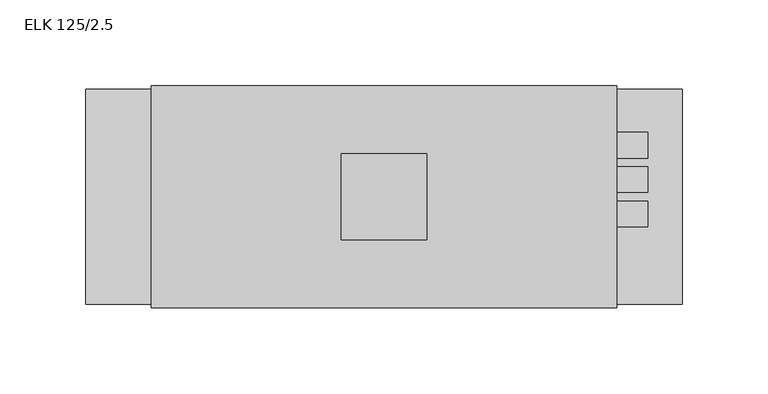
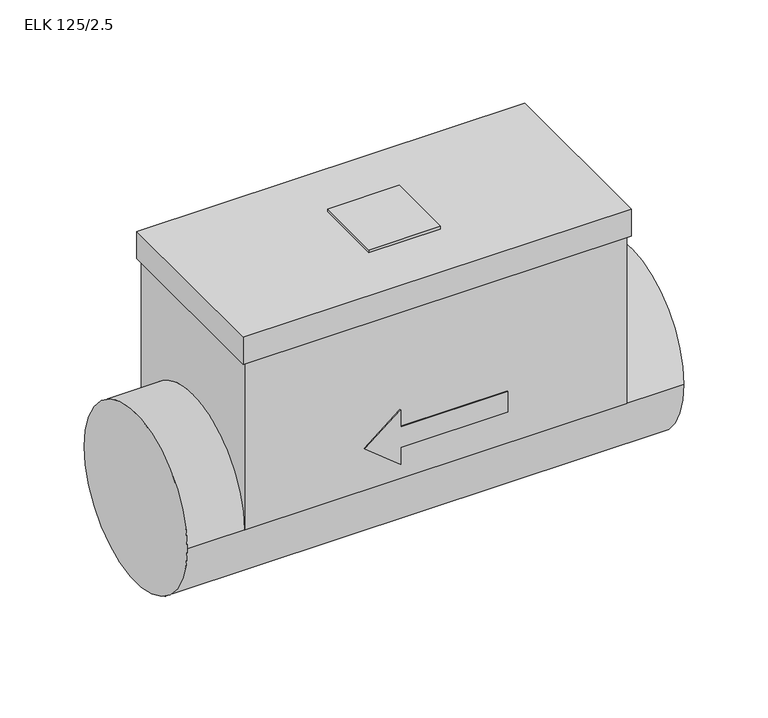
"""IFC4 building model written with IfcOpenShell, lengths in millimetres: proxy geometry, KORF_Нагреватель_Электрический_Круглый_ELK : ELK 125/2.5."""

from ifc_helpers import new_model, si_unit, point, frame, frame_2d, origin, place, context, project, spatial, polyline, circle_curve, trimmed, segment, composite_curve, outline, extrude, source, transform, mapped, element, save
from ifc_brep_helpers import plane_surface, cylinder_surface, advanced_brep


def elk_125_2_5_bc23f03a(model_context):
    return source(origin(), model_context, "Body", "SolidModel", [
        extrude(outline(polyline([(198.5, 25.0), (198.5, -25.0), (148.5, -25.0), (148.5, 25.0), (198.5, 25.0)])), frame((0.0, 0.0, 144.5), z_axis=(0.0, 0.0, 1.0), x_axis=(1.0, 0.0, 0.0)), (0.0, 0.0, 1.0), 2.0),
        extrude(outline(composite_curve([segment(trimmed(circle_curve(frame_2d((-10.0, 104.5)), 7.5), [point((-17.5, 104.5))], [point((-2.5, 104.5))], False, "CARTESIAN"), True, "CONTINUOUS"), segment(trimmed(circle_curve(frame_2d((-10.0, 104.5)), 7.5), [point((-2.5, 104.5))], [point((-17.5, 104.5))], False, "CARTESIAN"), True, "CONTINUOUS")], self_intersect=False)), frame((307.0, 0.0, 0.0), z_axis=(1.0, 0.0, 0.0), x_axis=(0.0, 1.0, 0.0)), (0.0, 0.0, 1.0), 20.0),
        extrude(outline(composite_curve([segment(trimmed(circle_curve(frame_2d((10.0, 104.5)), 7.5), [point((2.5, 104.5))], [point((17.5, 104.5))], False, "CARTESIAN"), True, "CONTINUOUS"), segment(trimmed(circle_curve(frame_2d((10.0, 104.5)), 7.5), [point((17.5, 104.5))], [point((2.5, 104.5))], False, "CARTESIAN"), True, "CONTINUOUS")], self_intersect=False)), frame((307.0, 0.0, 0.0), z_axis=(1.0, 0.0, 0.0), x_axis=(0.0, 1.0, 0.0)), (0.0, 0.0, 1.0), 20.0),
        extrude(outline(composite_curve([segment(trimmed(circle_curve(frame_2d((30.0, 104.5)), 7.5), [point((22.5, 104.5))], [point((37.5, 104.5))], False, "CARTESIAN"), True, "CONTINUOUS"), segment(trimmed(circle_curve(frame_2d((30.0, 104.5)), 7.5), [point((37.5, 104.5))], [point((22.5, 104.5))], False, "CARTESIAN"), True, "CONTINUOUS")], self_intersect=False)), frame((307.0, 0.0, 0.0), z_axis=(1.0, 0.0, 0.0), x_axis=(0.0, 1.0, 0.0)), (0.0, 0.0, 1.0), 20.0),
        advanced_brep(
        [(309.0, 64.5, 124.5), (309.0, -64.5, 124.5), (38.0, -64.5, 124.5), (38.0, 64.5, 124.5), (307.0, 62.5, 124.5), (40.0, 62.5, 124.5), (40.0, -62.5, 124.5), (307.0, -62.5, 124.5), (309.0, 64.5, 144.5), (38.0, 64.5, 144.5), (38.0, -64.5, 144.5), (309.0, -64.5, 144.5), (307.0, 62.5, 0.0), (40.0, 62.5, 0.0), (148.5, 62.5, 51.25), (123.5, 62.5, 31.25), (148.5, 62.5, 11.25), (148.5, 62.5, 23.75), (223.5, 62.5, 23.75), (223.5, 62.5, 38.75), (148.5, 62.5, 38.75), (40.0, -62.5, 0.0), (307.0, -62.5, 0.0), (123.5, -62.5, 31.25), (148.5, -62.5, 51.25), (148.5, -62.5, 38.75), (223.5, -62.5, 38.75), (223.5, -62.5, 23.75), (148.5, -62.5, 23.75), (148.5, -62.5, 11.25), (347.0, -62.5, 0.0), (347.0, 62.5, 0.0), (0.0, -62.5, 0.0), (0.0, 62.5, 0.0), (148.5, -63.5, 51.25), (123.5, -63.5, 31.25), (148.5, -63.5, 11.25), (148.5, -63.5, 23.75), (223.5, -63.5, 23.75), (223.5, -63.5, 38.75), (148.5, -63.5, 38.75), (148.5, 63.5, 51.25), (148.5, 63.5, 38.75), (223.5, 63.5, 38.75), (223.5, 63.5, 23.75), (148.5, 63.5, 23.75), (148.5, 63.5, 11.25), (123.5, 63.5, 31.25)],
        [
            (0, 1),
            (1, 2),
            (2, 3),
            (3, 0),
            (4, 5),
            (5, 6),
            (6, 7),
            (7, 4),
            (8, 9),
            (9, 10),
            (10, 11),
            (11, 8),
            (3, 9),
            (8, 0),
            (2, 10),
            (1, 11),
            (4, 12),
            (12, 13),
            (13, 5),
            (14, 15),
            (15, 16),
            (16, 17),
            (17, 18),
            (18, 19),
            (19, 20),
            (20, 14),
            (13, 21, circle_curve(frame((40.0, 0.0, 0.0), z_axis=(1.0, 0.0, 0.0), x_axis=(0.0, 1.0, 0.0)), 62.5)),
            (21, 6),
            (21, 22),
            (22, 7),
            (23, 24),
            (24, 25),
            (25, 26),
            (26, 27),
            (27, 28),
            (28, 29),
            (29, 23),
            (22, 12, circle_curve(frame((307.0, 0.0, 0.0), z_axis=(-1.0, 0.0, 0.0), x_axis=(0.0, 1.0, 0.0)), 62.5)),
            (30, 31, circle_curve(frame((347.0, 0.0, 0.0), z_axis=(1.0, 0.0, 0.0), x_axis=(0.0, 1.0, 0.0)), 62.5)),
            (31, 30, circle_curve(frame((347.0, 0.0, 0.0), z_axis=(1.0, 0.0, 0.0), x_axis=(0.0, 1.0, 0.0)), 62.5)),
            (32, 33, circle_curve(frame((0.0, 0.0, 0.0), z_axis=(-1.0, 0.0, 0.0), x_axis=(0.0, 1.0, 0.0)), 62.5)),
            (33, 32, circle_curve(frame((0.0, 0.0, 0.0), z_axis=(-1.0, 0.0, 0.0), x_axis=(0.0, 1.0, 0.0)), 62.5)),
            (30, 22),
            (21, 32),
            (33, 13),
            (12, 31),
            (34, 35),
            (35, 36),
            (36, 37),
            (37, 38),
            (38, 39),
            (39, 40),
            (40, 34),
            (41, 42),
            (42, 43),
            (43, 44),
            (44, 45),
            (45, 46),
            (46, 47),
            (47, 41),
            (34, 24),
            (23, 35),
            (47, 15),
            (14, 41),
            (29, 36),
            (46, 16),
            (28, 37),
            (45, 17),
            (27, 38),
            (44, 18),
            (26, 39),
            (43, 19),
            (25, 40),
            (42, 20),
        ],
        [
            plane_surface(frame((38.0, 64.5, 124.5), z_axis=(0.0, 0.0, -1.0), x_axis=(1.0, 0.0, 0.0))),
            plane_surface(frame((38.0, 64.5, 144.5), z_axis=(0.0, 0.0, 1.0), x_axis=(-1.0, 0.0, 0.0))),
            plane_surface(frame((309.0, 64.5, 144.5), z_axis=(0.0, 1.0, 0.0), x_axis=(0.0, 0.0, -1.0))),
            plane_surface(frame((38.0, 64.5, 144.5), z_axis=(-1.0, 0.0, 0.0), x_axis=(0.0, 0.0, -1.0))),
            plane_surface(frame((38.0, -64.5, 144.5), z_axis=(0.0, -1.0, 0.0), x_axis=(0.0, 0.0, -1.0))),
            plane_surface(frame((309.0, -64.5, 144.5), z_axis=(1.0, 0.0, 0.0), x_axis=(0.0, 0.0, -1.0))),
            plane_surface(frame((307.0, 62.5, 144.5), z_axis=(0.0, 1.0, 0.0), x_axis=(0.0, 0.0, -1.0))),
            plane_surface(frame((40.0, 62.5, 144.5), z_axis=(-1.0, 0.0, 0.0), x_axis=(0.0, 0.0, -1.0))),
            plane_surface(frame((40.0, -62.5, 144.5), z_axis=(0.0, -1.0, 0.0), x_axis=(0.0, 0.0, -1.0))),
            plane_surface(frame((307.0, -62.5, 144.5), z_axis=(1.0, 0.0, 0.0), x_axis=(0.0, 0.0, -1.0))),
            plane_surface(frame((347.0, 62.5, 0.0), z_axis=(1.0, 0.0, 0.0), x_axis=(0.0, 0.0, 1.0))),
            plane_surface(frame((0.0, 62.5, 0.0), z_axis=(-1.0, 0.0, 0.0), x_axis=(0.0, 0.0, -1.0))),
            cylinder_surface(frame((0.0, 0.0, 0.0), z_axis=(1.0, 0.0, 0.0), x_axis=(0.0, 1.0, 0.0)), 62.5),
            plane_surface(frame((123.5, -63.5, 31.25), z_axis=(0.0, -1.0, 0.0), x_axis=(-0.7808688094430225, 0.0, -0.6246950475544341))),
            plane_surface(frame((123.5, 63.5, 31.25), z_axis=(0.0, 1.0, 0.0), x_axis=(0.7808688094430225, 0.0, 0.6246950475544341))),
            plane_surface(frame((148.5, -63.5, 51.25), z_axis=(-0.6246950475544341, 0.0, 0.7808688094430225), x_axis=(0.0, 1.0, 0.0))),
            plane_surface(frame((123.5, -63.5, 31.25), z_axis=(-0.624695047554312, 0.0, -0.7808688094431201), x_axis=(0.0, 1.0, 0.0))),
            plane_surface(frame((148.5, -63.5, 11.25), z_axis=(1.0, 0.0, 0.0), x_axis=(0.0, 1.0, 0.0))),
            plane_surface(frame((148.5, -63.5, 23.75), z_axis=(0.0, 0.0, -1.0), x_axis=(0.0, 1.0, 0.0))),
            plane_surface(frame((223.5, -63.5, 23.75), z_axis=(1.0, 0.0, 0.0), x_axis=(0.0, 1.0, 0.0))),
            plane_surface(frame((223.5, -63.5, 38.75), z_axis=(0.0, 0.0, 1.0), x_axis=(0.0, 1.0, 0.0))),
            plane_surface(frame((148.5, -63.5, 38.75), z_axis=(1.0, 0.0, 0.0), x_axis=(0.0, 1.0, 0.0))),
        ],
        [
            (0, [[1, 2, 3, 4], [5, 6, 7, 8]]),
            (1, [[9, 10, 11, 12]]),
            (2, [[-4, 13, -9, 14]]),
            (3, [[-3, 15, -10, -13]]),
            (4, [[-2, 16, -11, -15]]),
            (5, [[-1, -14, -12, -16]]),
            (6, [[17, 18, 19, -5], [20, 21, 22, 23, 24, 25, 26]]),
            (7, [[-19, 27, 28, -6]]),
            (8, [[-28, 29, 30, -7], [31, 32, 33, 34, 35, 36, 37]]),
            (9, [[-17, -8, -30, 38]]),
            (10, [[39, 40]]),
            (11, [[41, 42]]),
            (12, [[-39, 43, -29, 44, -42, 45, -18, 46]]),
            (12, [[-40, -46, -38, -43]]),
            (12, [[-41, -44, -27, -45]]),
            (13, [[47, 48, 49, 50, 51, 52, 53]]),
            (14, [[54, 55, 56, 57, 58, 59, 60]]),
            (15, [[-47, 61, -31, 62]]),
            (15, [[-60, 63, -20, 64]]),
            (16, [[-48, -62, -37, 65]]),
            (16, [[-59, 66, -21, -63]]),
            (17, [[-49, -65, -36, 67]]),
            (17, [[-58, 68, -22, -66]]),
            (18, [[-50, -67, -35, 69]]),
            (18, [[-57, 70, -23, -68]]),
            (19, [[-51, -69, -34, 71]]),
            (19, [[-56, 72, -24, -70]]),
            (20, [[-52, -71, -33, 73]]),
            (20, [[-55, 74, -25, -72]]),
            (21, [[-53, -73, -32, -61]]),
            (21, [[-54, -64, -26, -74]]),
        ],
    ),
    ])


if __name__ == "__main__":
    model = new_model("IFC4")
    model_context = context("Model", 3, world=origin())
    ifc_project = project(units=[si_unit("LENGTHUNIT", "METRE", prefix="MILLI")], contexts=[model_context])
    site = spatial("IfcSite", under=ifc_project)
    building = spatial("IfcBuilding", under=site)
    placement = place(None, origin())
    elk_125_2_5_shape = elk_125_2_5_bc23f03a(model_context)
    element("IfcBuildingElementProxy", 1, Name="KORF_Нагреватель_Электрический_Круглый_ELK : ELK 125/2.5", ObjectType="KORF_Нагреватель_Электрический_Круглый_ELK : ELK 125/2.5", at=placement, inside=building, context=model_context, shape_type="MappedRepresentation", body=[
        mapped(elk_125_2_5_shape, transform((0.0, 0.0, 0.0), x_axis=(1.0, 0.0, 0.0), y_axis=(0.0, 1.0, 0.0), z_axis=(0.0, 0.0, 1.0))),
    ])
    save(model, "model.ifc")
